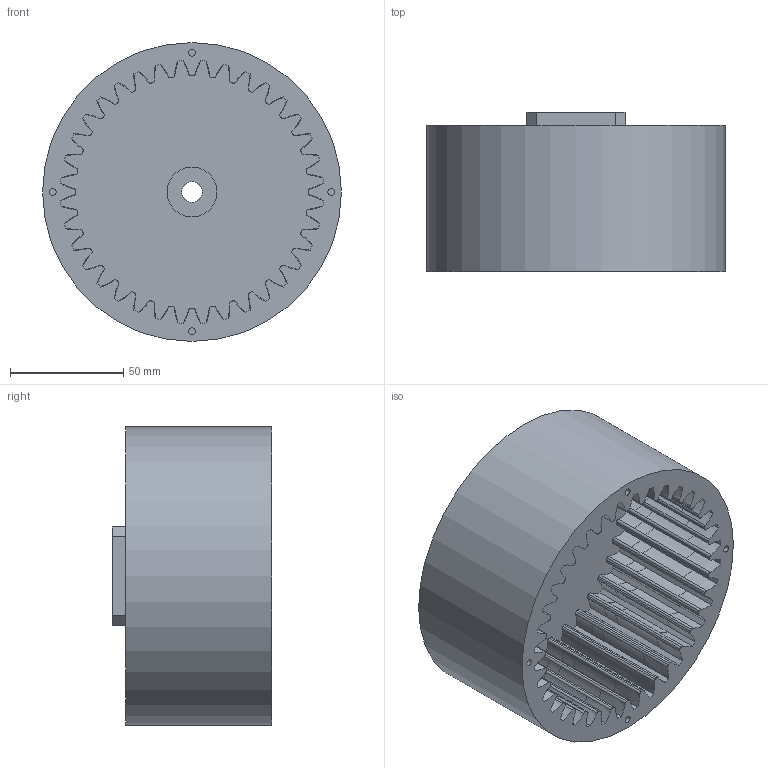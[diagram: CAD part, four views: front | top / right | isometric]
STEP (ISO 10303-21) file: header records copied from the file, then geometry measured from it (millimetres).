
FILE_DESCRIPTION(/* description */ ('STEP AP242 Edition 2','CAx-IF Rec.Pracs.---Representation and Presentation of Product Manufacturing Information (PMI)---4.0---2014-10-13','CAx-IF Rec.Pracs.---3D Tessellated Geometry---0.4---2014-09-14','2;1','CAx-IF Rec.Pracs.---User Defined Attributes---1.5---2016-08-15'),/* implementation_level */ '2;1');
FILE_NAME(/* name */ 'Assembly V2 - Part 3 (3)',/* time_stamp */ '2026-02-05T22:44:42Z',/* author */ (''),/* organization */ (''),/* preprocessor_version */ 'ST-DEVELOPER v20',/* originating_system */ 'ONSHAPE BY PTC INC, 1.210',/* authorisation */ ' ');
FILE_SCHEMA (('AP242_MANAGED_MODEL_BASED_3D_ENGINEERING_MIM_LF { 1 0 10303 442 3 1 4 }'));
Length unit declared in the file: metre
Products named in the file (1): Part 3
Bounding box: 131.67 x 70.26 x 131.67 mm (x, y, z)
Volume: 340215.3 mm3; surface area: 95267.3 mm2
Topology: 1 solids, 1 shells, 466 faces, 1505 edges, 1053 vertices
Faces by surface type: bspline 288, cylinder 156, plane 22
Full cylindrical faces by diameter (mm): 2.5 x4, 3 x4, 9 x1, 22 x2, 131.674 x1
Entity records: 21962 total; most frequent: CARTESIAN_POINT 11067, ORIENTED_EDGE 2976, EDGE_CURVE 1488, DIRECTION 1222, VERTEX_POINT 1048, B_SPLINE_CURVE_WITH_KNOTS 936, EDGE_LOOP 492, FACE_BOUND 492
